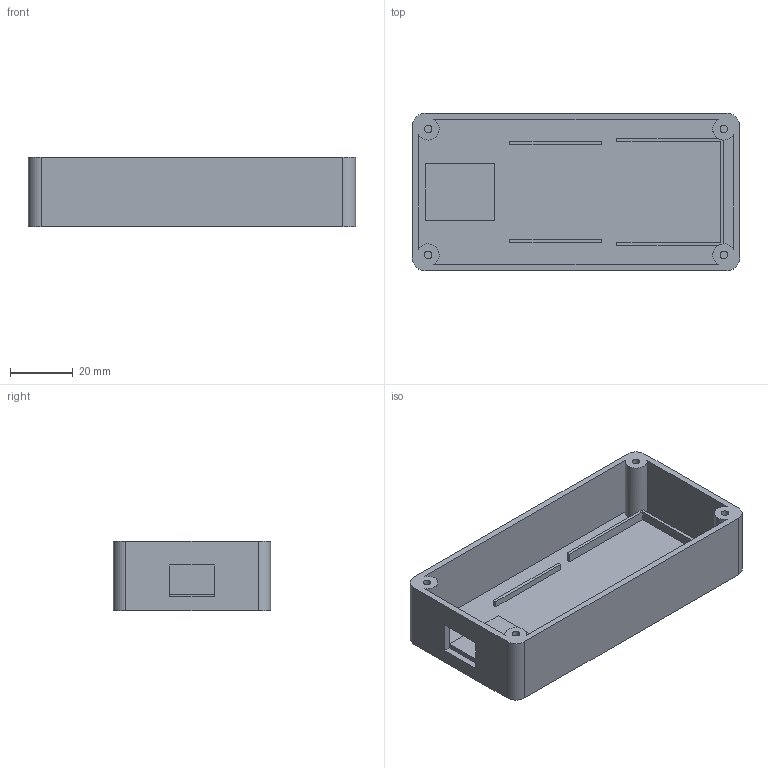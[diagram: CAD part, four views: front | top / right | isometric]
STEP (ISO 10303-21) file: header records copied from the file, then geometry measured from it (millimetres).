
FILE_DESCRIPTION(('Open CASCADE Model'),'2;1');
FILE_NAME('Open CASCADE Shape Model','2026-11-18T10:43:29',('Author'),( 'Open CASCADE'),'Open CASCADE STEP processor 7.9','Open CASCADE 7.9' ,'Unknown');
FILE_SCHEMA(('AUTOMOTIVE_DESIGN { 1 0 10303 214 1 1 1 1 }'));
Length unit declared in the file: millimetre
Products named in the file (1): Open CASCADE STEP translator 7.9 1
Bounding box: 104 x 50 x 22 mm (x, y, z)
Volume: 25627.9 mm3; surface area: 24425.1 mm2
Topology: 1 solids, 1 shells, 56 faces, 138 edges, 92 vertices
Faces by surface type: plane 44, cylinder 12
Full cylindrical faces by diameter (mm): 2.4 x4
Entity records: 3454 total; most frequent: CARTESIAN_POINT 693, DIRECTION 496, LINE 312, VECTOR 312, ORIENTED_EDGE 276, PCURVE 276, DEFINITIONAL_REPRESENTATION 276, EDGE_CURVE 138
